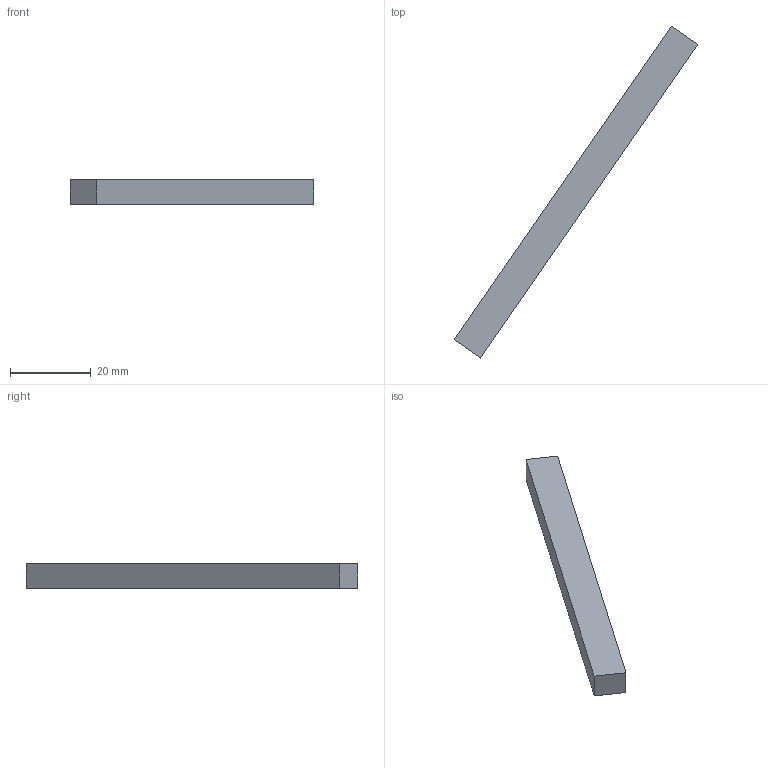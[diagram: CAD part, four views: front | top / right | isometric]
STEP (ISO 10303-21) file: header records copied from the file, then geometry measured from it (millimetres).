
FILE_DESCRIPTION(('Open CASCADE Model'),'2;1');
FILE_NAME('Open CASCADE Shape Model','2026-10-04T02:31:35',('Author'),( 'Open CASCADE'),'Open CASCADE STEP processor 8.0','Open CASCADE 8.0' ,'Unknown');
FILE_SCHEMA(('AUTOMOTIVE_DESIGN { 1 0 10303 214 1 1 1 1 }'));
Length unit declared in the file: millimetre
Products named in the file (1): Open CASCADE STEP translator 8.0 37
Bounding box: 60.44 x 82.36 x 6 mm (x, y, z)
Volume: 4542.2 mm3; surface area: 2745.6 mm2
Topology: 1 solids, 1 shells, 6 faces, 12 edges, 8 vertices
Faces by surface type: plane 6
Entity records: 322 total; most frequent: CARTESIAN_POINT 51, DIRECTION 50, LINE 36, VECTOR 36, ORIENTED_EDGE 24, PCURVE 24, DEFINITIONAL_REPRESENTATION 24, EDGE_CURVE 12
